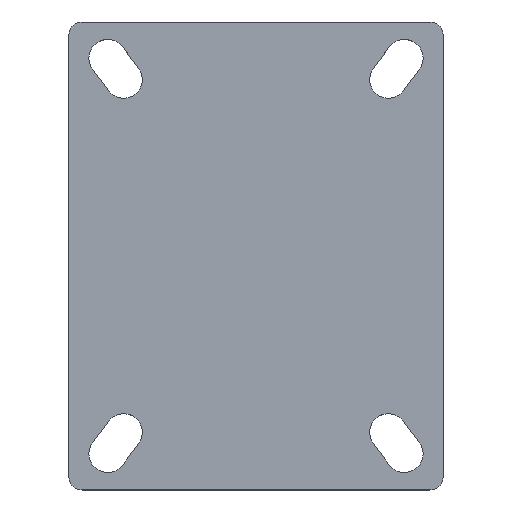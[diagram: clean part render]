
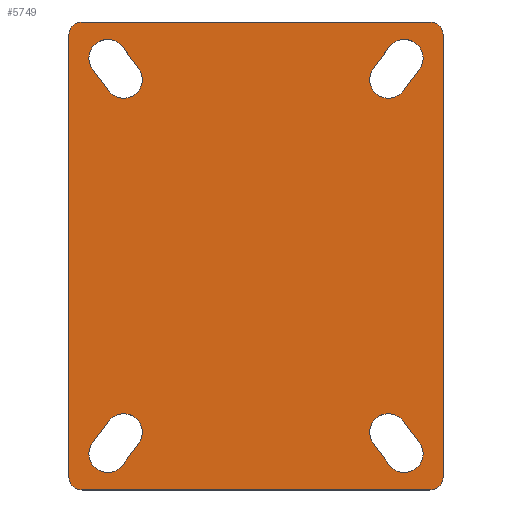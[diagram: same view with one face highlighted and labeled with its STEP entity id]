
A CAD part, top view. The second image highlights one B-rep face of the part: STEP entity #5749.
In plain terms, the highlighted planar face has unit normal (0, 0, 1).
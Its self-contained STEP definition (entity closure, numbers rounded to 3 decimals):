
#4742=CARTESIAN_POINT('',(178.262,749.826,18.));
#4743=VERTEX_POINT('',#4742);
#4750=CARTESIAN_POINT('',(189.462,758.226,18.));
#4751=VERTEX_POINT('',#4750);
#4752=CARTESIAN_POINT('',(183.862,754.026,18.));
#4753=DIRECTION('',(0.0,0.0,1.0));
#4754=DIRECTION('',(1.0,0.0,0.0));
#4755=AXIS2_PLACEMENT_3D('',#4752,#4753,#4754);
#4756=CIRCLE('',#4755,7.);
#4757=EDGE_CURVE('',#4743,#4751,#4756,.T.);
#4773=CARTESIAN_POINT('',(183.462,766.226,18.));
#4774=VERTEX_POINT('',#4773);
#4775=CARTESIAN_POINT('',(172.262,757.826,18.));
#4776=VERTEX_POINT('',#4775);
#4777=CARTESIAN_POINT('',(177.862,762.026,18.));
#4778=DIRECTION('',(0.0,0.0,1.0));
#4779=DIRECTION('',(1.0,0.0,0.0));
#4780=AXIS2_PLACEMENT_3D('',#4777,#4778,#4779);
#4781=CIRCLE('',#4780,7.);
#4782=EDGE_CURVE('',#4774,#4776,#4781,.T.);
#4815=CARTESIAN_POINT('',(277.262,758.226,18.));
#4816=VERTEX_POINT('',#4815);
#4817=CARTESIAN_POINT('',(288.462,749.826,18.));
#4818=VERTEX_POINT('',#4817);
#4819=CARTESIAN_POINT('',(282.862,754.026,18.));
#4820=DIRECTION('',(0.0,0.0,1.0));
#4821=DIRECTION('',(1.0,0.0,0.0));
#4822=AXIS2_PLACEMENT_3D('',#4819,#4820,#4821);
#4823=CIRCLE('',#4822,7.);
#4824=EDGE_CURVE('',#4816,#4818,#4823,.T.);
#4868=CARTESIAN_POINT('',(294.462,757.826,18.));
#4869=VERTEX_POINT('',#4868);
#4876=CARTESIAN_POINT('',(283.262,766.226,18.));
#4877=VERTEX_POINT('',#4876);
#4878=CARTESIAN_POINT('',(288.862,762.026,18.));
#4879=DIRECTION('',(0.0,0.0,1.0));
#4880=DIRECTION('',(1.0,0.0,0.0));
#4881=AXIS2_PLACEMENT_3D('',#4878,#4879,#4880);
#4882=CIRCLE('',#4881,7.);
#4883=EDGE_CURVE('',#4869,#4877,#4882,.T.);
#4899=CARTESIAN_POINT('',(288.462,626.226,18.));
#4900=VERTEX_POINT('',#4899);
#4901=CARTESIAN_POINT('',(277.262,617.826,18.));
#4902=VERTEX_POINT('',#4901);
#4903=CARTESIAN_POINT('',(282.862,622.026,18.));
#4904=DIRECTION('',(0.0,0.0,1.0));
#4905=DIRECTION('',(1.0,0.0,0.0));
#4906=AXIS2_PLACEMENT_3D('',#4903,#4904,#4905);
#4907=CIRCLE('',#4906,7.);
#4908=EDGE_CURVE('',#4900,#4902,#4907,.T.);
#4952=CARTESIAN_POINT('',(283.262,609.826,18.));
#4953=VERTEX_POINT('',#4952);
#4960=CARTESIAN_POINT('',(294.462,618.226,18.));
#4961=VERTEX_POINT('',#4960);
#4962=CARTESIAN_POINT('',(288.862,614.026,18.));
#4963=DIRECTION('',(0.0,0.0,1.0));
#4964=DIRECTION('',(1.0,0.0,0.0));
#4965=AXIS2_PLACEMENT_3D('',#4962,#4963,#4964);
#4966=CIRCLE('',#4965,7.);
#4967=EDGE_CURVE('',#4953,#4961,#4966,.T.);
#4994=CARTESIAN_POINT('',(189.462,617.826,18.));
#4995=VERTEX_POINT('',#4994);
#5002=CARTESIAN_POINT('',(178.262,626.226,18.));
#5003=VERTEX_POINT('',#5002);
#5004=CARTESIAN_POINT('',(183.862,622.026,18.));
#5005=DIRECTION('',(0.0,0.0,1.0));
#5006=DIRECTION('',(1.0,0.0,0.0));
#5007=AXIS2_PLACEMENT_3D('',#5004,#5005,#5006);
#5008=CIRCLE('',#5007,7.);
#5009=EDGE_CURVE('',#4995,#5003,#5008,.T.);
#5025=CARTESIAN_POINT('',(172.262,618.226,18.));
#5026=VERTEX_POINT('',#5025);
#5027=CARTESIAN_POINT('',(183.462,609.826,18.));
#5028=VERTEX_POINT('',#5027);
#5029=CARTESIAN_POINT('',(177.862,614.026,18.));
#5030=DIRECTION('',(0.0,0.0,1.0));
#5031=DIRECTION('',(1.0,0.0,0.0));
#5032=AXIS2_PLACEMENT_3D('',#5029,#5030,#5031);
#5033=CIRCLE('',#5032,7.);
#5034=EDGE_CURVE('',#5026,#5028,#5033,.T.);
#5212=CARTESIAN_POINT('',(298.362,600.526,18.));
#5213=VERTEX_POINT('',#5212);
#5214=CARTESIAN_POINT('',(168.362,600.526,18.));
#5215=VERTEX_POINT('',#5214);
#5216=CARTESIAN_POINT('',(298.362,600.526,18.));
#5217=DIRECTION('',(-1.0,0.0,0.0));
#5218=VECTOR('',#5217,130.);
#5219=LINE('',#5216,#5218);
#5220=EDGE_CURVE('',#5213,#5215,#5219,.T.);
#5252=CARTESIAN_POINT('',(163.362,605.526,18.));
#5253=VERTEX_POINT('',#5252);
#5254=CARTESIAN_POINT('',(168.362,605.526,18.));
#5255=DIRECTION('',(0.0,0.0,-1.0));
#5256=DIRECTION('',(1.0,0.0,0.0));
#5257=AXIS2_PLACEMENT_3D('',#5254,#5255,#5256);
#5258=CIRCLE('',#5257,5.0);
#5259=EDGE_CURVE('',#5215,#5253,#5258,.T.);
#5285=CARTESIAN_POINT('',(163.362,770.526,18.));
#5286=VERTEX_POINT('',#5285);
#5287=CARTESIAN_POINT('',(163.362,605.526,18.));
#5288=DIRECTION('',(0.0,1.0,0.0));
#5289=VECTOR('',#5288,165.0);
#5290=LINE('',#5287,#5289);
#5291=EDGE_CURVE('',#5253,#5286,#5290,.T.);
#5316=CARTESIAN_POINT('',(168.362,775.526,18.));
#5317=VERTEX_POINT('',#5316);
#5318=CARTESIAN_POINT('',(168.362,770.526,18.));
#5319=DIRECTION('',(0.0,0.0,-1.0));
#5320=DIRECTION('',(1.0,0.0,0.0));
#5321=AXIS2_PLACEMENT_3D('',#5318,#5319,#5320);
#5322=CIRCLE('',#5321,5.0);
#5323=EDGE_CURVE('',#5286,#5317,#5322,.T.);
#5349=CARTESIAN_POINT('',(298.362,775.526,18.));
#5350=VERTEX_POINT('',#5349);
#5351=CARTESIAN_POINT('',(168.362,775.526,18.));
#5352=DIRECTION('',(1.0,0.0,0.0));
#5353=VECTOR('',#5352,130.0);
#5354=LINE('',#5351,#5353);
#5355=EDGE_CURVE('',#5317,#5350,#5354,.T.);
#5380=CARTESIAN_POINT('',(303.362,770.526,18.));
#5381=VERTEX_POINT('',#5380);
#5382=CARTESIAN_POINT('',(298.362,770.526,18.));
#5383=DIRECTION('',(0.0,0.0,-1.0));
#5384=DIRECTION('',(1.0,0.0,0.0));
#5385=AXIS2_PLACEMENT_3D('',#5382,#5383,#5384);
#5386=CIRCLE('',#5385,5.0);
#5387=EDGE_CURVE('',#5350,#5381,#5386,.T.);
#5413=CARTESIAN_POINT('',(303.362,605.526,18.));
#5414=VERTEX_POINT('',#5413);
#5415=CARTESIAN_POINT('',(303.362,770.526,18.));
#5416=DIRECTION('',(0.0,-1.0,0.0));
#5417=VECTOR('',#5416,165.0);
#5418=LINE('',#5415,#5417);
#5419=EDGE_CURVE('',#5381,#5414,#5418,.T.);
#5444=CARTESIAN_POINT('',(298.362,605.526,18.));
#5445=DIRECTION('',(0.0,0.0,-1.0));
#5446=DIRECTION('',(1.0,0.0,0.0));
#5447=AXIS2_PLACEMENT_3D('',#5444,#5445,#5446);
#5448=CIRCLE('',#5447,5.0);
#5449=EDGE_CURVE('',#5414,#5213,#5448,.T.);
#5468=CARTESIAN_POINT('',(183.462,609.826,18.));
#5469=DIRECTION('',(0.6,0.8,0.0));
#5470=VECTOR('',#5469,10.);
#5471=LINE('',#5468,#5470);
#5472=EDGE_CURVE('',#5028,#4995,#5471,.T.);
#5490=CARTESIAN_POINT('',(178.262,626.226,18.));
#5491=DIRECTION('',(-0.6,-0.8,0.0));
#5492=VECTOR('',#5491,10.0);
#5493=LINE('',#5490,#5492);
#5494=EDGE_CURVE('',#5003,#5026,#5493,.T.);
#5512=CARTESIAN_POINT('',(294.462,618.226,18.));
#5513=DIRECTION('',(-0.6,0.8,0.0));
#5514=VECTOR('',#5513,10.0);
#5515=LINE('',#5512,#5514);
#5516=EDGE_CURVE('',#4961,#4900,#5515,.T.);
#5534=CARTESIAN_POINT('',(277.262,617.826,18.));
#5535=DIRECTION('',(0.6,-0.8,0.0));
#5536=VECTOR('',#5535,10.);
#5537=LINE('',#5534,#5536);
#5538=EDGE_CURVE('',#4902,#4953,#5537,.T.);
#5556=CARTESIAN_POINT('',(288.462,749.826,18.));
#5557=DIRECTION('',(0.6,0.8,0.0));
#5558=VECTOR('',#5557,10.0);
#5559=LINE('',#5556,#5558);
#5560=EDGE_CURVE('',#4818,#4869,#5559,.T.);
#5578=CARTESIAN_POINT('',(283.262,766.226,18.));
#5579=DIRECTION('',(-0.6,-0.8,0.0));
#5580=VECTOR('',#5579,10.0);
#5581=LINE('',#5578,#5580);
#5582=EDGE_CURVE('',#4877,#4816,#5581,.T.);
#5600=CARTESIAN_POINT('',(172.262,757.826,18.));
#5601=DIRECTION('',(0.6,-0.8,0.0));
#5602=VECTOR('',#5601,10.);
#5603=LINE('',#5600,#5602);
#5604=EDGE_CURVE('',#4776,#4743,#5603,.T.);
#5622=CARTESIAN_POINT('',(189.462,758.226,18.));
#5623=DIRECTION('',(-0.6,0.8,0.0));
#5624=VECTOR('',#5623,10.);
#5625=LINE('',#5622,#5624);
#5626=EDGE_CURVE('',#4751,#4774,#5625,.T.);
#5710=CARTESIAN_POINT('',(233.362,688.026,18.));
#5711=DIRECTION('',(0.0,0.0,1.0));
#5712=DIRECTION('',(1.0,0.0,0.0));
#5713=AXIS2_PLACEMENT_3D('',#5710,#5711,#5712);
#5714=PLANE('',#5713);
#5715=ORIENTED_EDGE('',*,*,#5220,.F.);
#5716=ORIENTED_EDGE('',*,*,#5449,.F.);
#5717=ORIENTED_EDGE('',*,*,#5419,.F.);
#5718=ORIENTED_EDGE('',*,*,#5387,.F.);
#5719=ORIENTED_EDGE('',*,*,#5355,.F.);
#5720=ORIENTED_EDGE('',*,*,#5323,.F.);
#5721=ORIENTED_EDGE('',*,*,#5291,.F.);
#5722=ORIENTED_EDGE('',*,*,#5259,.F.);
#5723=EDGE_LOOP('',(#5715,#5716,#5717,#5718,#5719,#5720,#5721,#5722));
#5724=FACE_OUTER_BOUND('',#5723,.T.);
#5725=ORIENTED_EDGE('',*,*,#4782,.F.);
#5726=ORIENTED_EDGE('',*,*,#5626,.F.);
#5727=ORIENTED_EDGE('',*,*,#4757,.F.);
#5728=ORIENTED_EDGE('',*,*,#5604,.F.);
#5729=EDGE_LOOP('',(#5725,#5726,#5727,#5728));
#5730=FACE_BOUND('',#5729,.T.);
#5731=ORIENTED_EDGE('',*,*,#5560,.F.);
#5732=ORIENTED_EDGE('',*,*,#4824,.F.);
#5733=ORIENTED_EDGE('',*,*,#5582,.F.);
#5734=ORIENTED_EDGE('',*,*,#4883,.F.);
#5735=EDGE_LOOP('',(#5731,#5732,#5733,#5734));
#5736=FACE_BOUND('',#5735,.T.);
#5737=ORIENTED_EDGE('',*,*,#4967,.F.);
#5738=ORIENTED_EDGE('',*,*,#5538,.F.);
#5739=ORIENTED_EDGE('',*,*,#4908,.F.);
#5740=ORIENTED_EDGE('',*,*,#5516,.F.);
#5741=EDGE_LOOP('',(#5737,#5738,#5739,#5740));
#5742=FACE_BOUND('',#5741,.T.);
#5743=ORIENTED_EDGE('',*,*,#5034,.F.);
#5744=ORIENTED_EDGE('',*,*,#5494,.F.);
#5745=ORIENTED_EDGE('',*,*,#5009,.F.);
#5746=ORIENTED_EDGE('',*,*,#5472,.F.);
#5747=EDGE_LOOP('',(#5743,#5744,#5745,#5746));
#5748=FACE_BOUND('',#5747,.T.);
#5749=ADVANCED_FACE('',(#5724,#5730,#5736,#5742,#5748),#5714,.T.);
